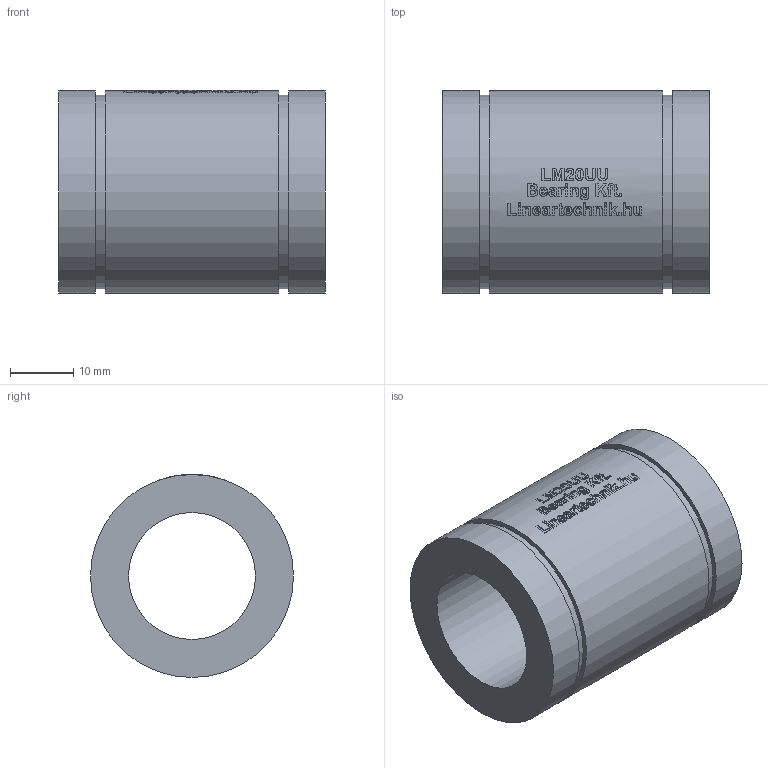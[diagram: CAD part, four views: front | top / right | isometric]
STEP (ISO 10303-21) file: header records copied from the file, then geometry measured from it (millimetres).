
FILE_DESCRIPTION(/* description */ ('Huosing for flange nuts'),/* implementation_level */ '2;1');
FILE_NAME(/* name */ 'LM20UU',/* time_stamp */ '2019-05-07T14:07:58+02:00',/* author */ ('VĂ©gh MĂˇtĂ©'),/* organization */ ('Bearing Kft'),/* preprocessor_version */ 'ST-DEVELOPER v16.7',/* originating_system */ 'DEX',/* authorisation */ $);
FILE_SCHEMA (('AUTOMOTIVE_DESIGN {1 0 10303 214 3 1 1}'));
Length unit declared in the file: millimetre
Products named in the file (1): LM20UU
Bounding box: 42 x 32 x 32 mm (x, y, z)
Volume: 20344.2 mm3; surface area: 8145.1 mm2
Topology: 1 solids, 1 shells, 298 faces, 744 edges, 497 vertices
Faces by surface type: plane 154, bspline 93, cylinder 51
Full cylindrical faces by diameter (mm): 20 x1, 30.5 x2, 32 x3
Entity records: 15917 total; most frequent: CARTESIAN_POINT 9295, ORIENTED_EDGE 1466, DIRECTION 1097, EDGE_CURVE 733, VERTEX_POINT 495, LINE 407, VECTOR 407, EDGE_LOOP 358
